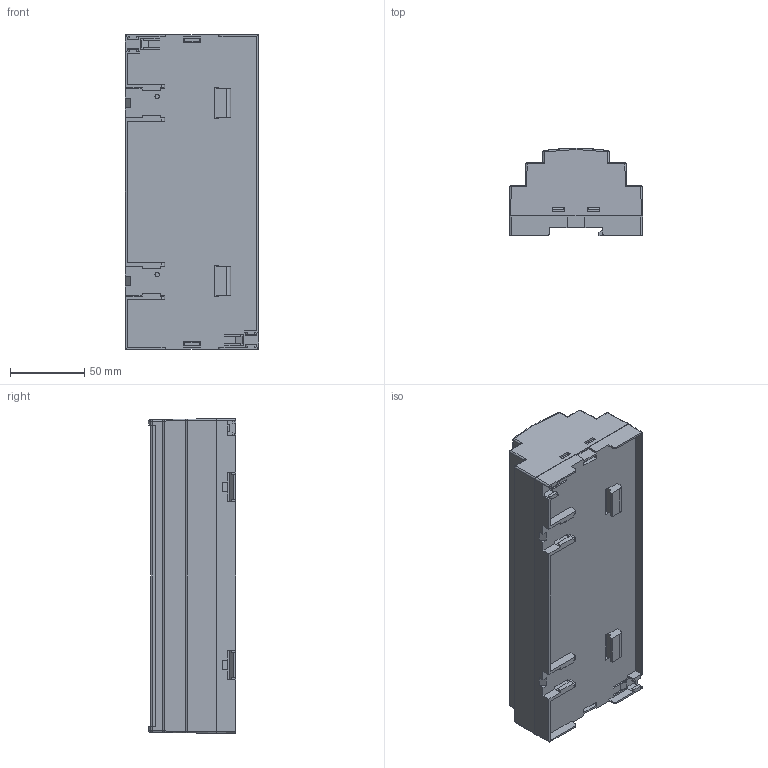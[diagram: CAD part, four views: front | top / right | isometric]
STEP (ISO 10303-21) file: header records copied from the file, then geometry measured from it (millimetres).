
FILE_DESCRIPTION (( 'STEP AP203' ), '1' );
FILE_NAME ('PT212-A.STEP', '2020-01-30T09:30:51', ( '' ), ( '' ), 'SwSTEP 2.0', 'SolidWorks 2020', '' );
FILE_SCHEMA (( 'CONFIG_CONTROL_DESIGN' ));
Length unit declared in the file: millimetre
Products named in the file (4): PT212-A
Assembly tree (3 placements, depth 2):
  PT212-A
    PT212-A
    PT212-A
    PT212-A
Bounding box: 90 x 58.9 x 212.1 mm (x, y, z)
Volume: 139637.1 mm3; surface area: 145260.9 mm2
Topology: 3 solids, 3 shells, 551 faces, 1597 edges, 1044 vertices
Faces by surface type: plane 438, cylinder 64, bspline 21, cone 16, sphere 12
Entity records: 19525 total; most frequent: CARTESIAN_POINT 4977, ORIENTED_EDGE 3178, DIRECTION 2590, EDGE_CURVE 1589, LINE 1348, VECTOR 1348, VERTEX_POINT 1044, AXIS2_PLACEMENT_3D 621
